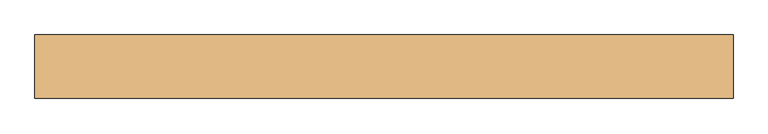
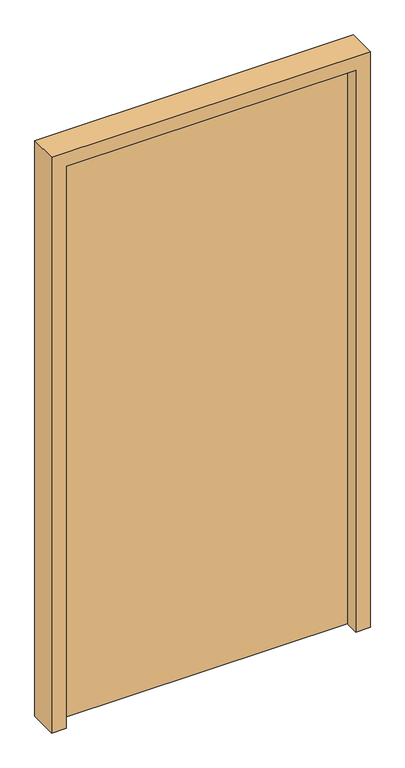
"""IFC4 building model written with IfcOpenShell, lengths in millimetres: door geometry, (Dr)_ДУ(распашная)_1Ст_Прямоугольная : (Вн)_ДГ(1.10х2.1(h))."""

from ifc_helpers import new_model, si_unit, frame, origin, origin_with_axes, place, context, project, spatial, polyline, outline, extrude, source, transform, mapped, element, save


def door_a4a0d0d3(model_context):
    return source(origin(), model_context, "Body", "SweptSolid", [
        extrude(outline(polyline([(500.0, 60.0), (500.0, 10.0), (-500.0, 10.0), (-500.0, 60.0), (500.0, 60.0)])), origin_with_axes(), (0.0, 0.0, 1.0), 2050.0),
        extrude(outline(polyline([(0.0, -550.0), (0.0, -500.0), (2050.0, -500.0), (2050.0, 500.0), (0.0, 500.0), (0.0, 550.0), (2100.0, 550.0), (2100.0, -550.0), (0.0, -550.0)])), frame((0.0, -40.0, 0.0), z_axis=(0.0, 1.0, 0.0), x_axis=(0.0, 0.0, 1.0)), (0.0, 0.0, 1.0), 100.0),
    ])


if __name__ == "__main__":
    model = new_model("IFC4")
    model_context = context("Model", 3, world=origin())
    ifc_project = project(units=[si_unit("LENGTHUNIT", "METRE", prefix="MILLI")], contexts=[model_context])
    site = spatial("IfcSite", under=ifc_project)
    building = spatial("IfcBuilding", under=site)
    placement = place(None, origin())
    door_shape = door_a4a0d0d3(model_context)
    element("IfcDoor", 1, ObjectType="(Dr)_ДУ(распашная)_1Ст_Прямоугольная : (Вн)_ДГ(1.10х2.1(h))", at=placement, inside=building, context=model_context, shape_type="MappedRepresentation", body=[
        mapped(door_shape, transform((0.0, 0.0, 0.0), x_axis=(1.0, 0.0, 0.0), y_axis=(0.0, 1.0, 0.0), z_axis=(0.0, 0.0, 1.0))),
    ])
    save(model, "model.ifc")
